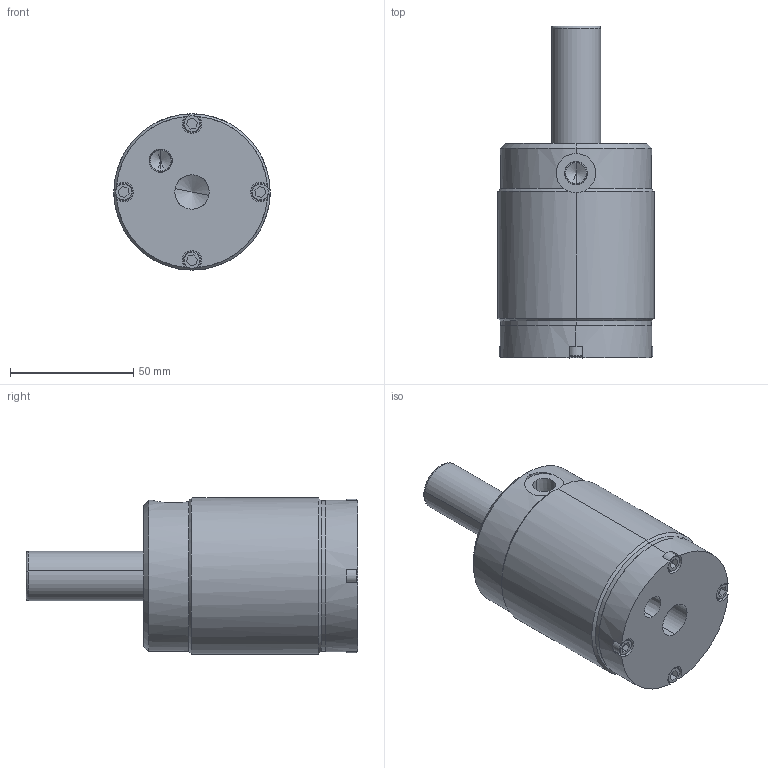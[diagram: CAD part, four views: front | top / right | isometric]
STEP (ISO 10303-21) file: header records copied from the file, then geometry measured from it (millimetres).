
FILE_DESCRIPTION((''),'2;1');
FILE_NAME('001_DESTACO_035_910_ASM','2024-02-29T',('SYSTEM'),(''),'PRO/ENGINEER BY PARAMETRIC TECHNOLOGY CORPORATION, 2016360','PRO/ENGINEER BY PARAMETRIC TECHNOLOGY CORPORATION, 2016360','');
FILE_SCHEMA(('AUTOMOTIVE_DESIGN { 1 0 10303 214 1 1 1 1 }'));
Products named in the file (10): 150BODY_5; 150BODY_4; 150BODY_3; 150BODY_2; 150BODY_1; 150BODY_0; 150-BODY_ASM; 150BODY_6; 150-SHAFT_ASM; 001_DESTACO_035_910_ASM
Assembly tree (9 placements, depth 3):
  001_DESTACO_035_910_ASM
    150-BODY_ASM
      150BODY_5
      150BODY_4
      150BODY_3
      150BODY_2
      150BODY_1
      150BODY_0
    150-SHAFT_ASM
      150BODY_6
Bounding box: 63.5 x 134.85 x 63.5 mm (x, y, z)
Volume: 260574.6 mm3; surface area: 45112.4 mm2
Topology: 7 solids, 7 shells, 167 faces, 386 edges, 235 vertices
Faces by surface type: cylinder 68, plane 53, cone 44, torus 2
Entity records: 6587 total; most frequent: CARTESIAN_POINT 928, DIRECTION 923, ORIENTED_EDGE 740, PRESENTATION_STYLE_ASSIGNMENT 377, STYLED_ITEM 377, CURVE_STYLE 370, EDGE_CURVE 370, AXIS2_PLACEMENT_3D 368
